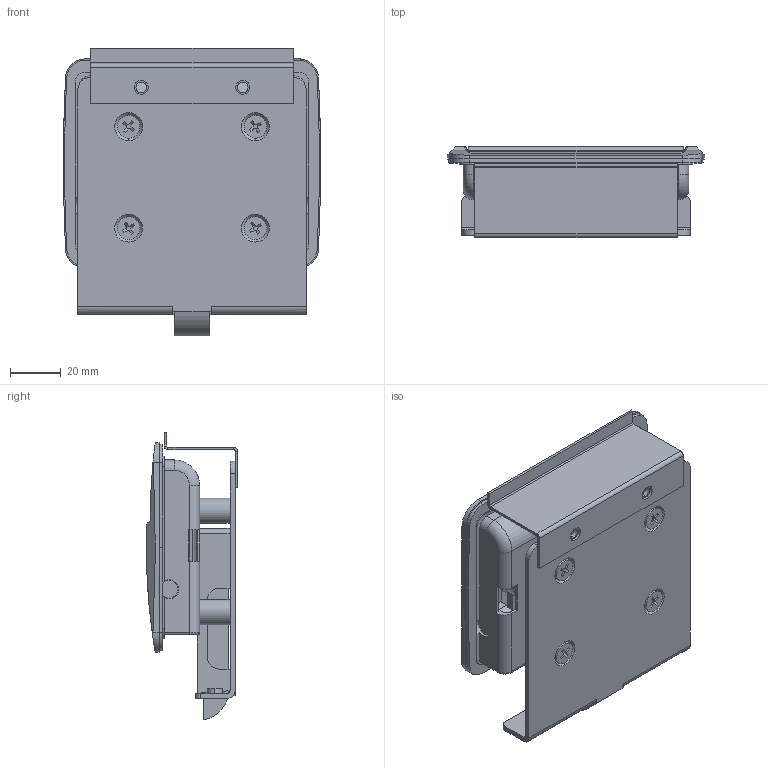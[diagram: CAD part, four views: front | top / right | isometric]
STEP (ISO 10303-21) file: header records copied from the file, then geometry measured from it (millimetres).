
FILE_DESCRIPTION (( 'STEP AP203' ), '1' );
FILE_NAME ('SK1-1009.STEP', '2018-04-26T01:03:24', ( 'admin' ), ( 'Microsoft' ), 'SwSTEP 2.0', 'SolidWorks 2015', '' );
FILE_SCHEMA (( 'CONFIG_CONTROL_DESIGN' ));
Length unit declared in the file: millimetre
Products named in the file (11): SK1-1009菁裔; SK1-1009砎々菜; M5麥芛鼠備酗僅6.5; SK1-1009; SK1-1009結え; SK1-1009參忒; SK1-1009菜え; SK1-1009种隊; SK1-1009坶郋; SK1-1009蜇璃1
Assembly tree (14 placements, depth 2):
  SK1-1009
    SK1-1009
    SK1-1009參忒
    SK1-1009菜え  x2
    SK1-1009种隊
    SK1-1009坶郋
    SK1-1009蜇璃1
    SK1-1009菁裔
    SK1-1009砎々菜
    M5麥芛鼠備酗僅6.5  x4
    SK1-1009結え
Bounding box: 101.48 x 36 x 113.5 mm (x, y, z)
Volume: 74365.8 mm3; surface area: 81753.1 mm2
Topology: 14 solids, 14 shells, 753 faces, 1983 edges, 1290 vertices
Faces by surface type: plane 374, cylinder 249, bspline 90, cone 32, torus 6, sphere 2
Entity records: 26669 total; most frequent: CARTESIAN_POINT 10712, ORIENTED_EDGE 3204, DIRECTION 2792, EDGE_CURVE 1602, VERTEX_POINT 1048, VECTOR 986, LINE 986, AXIS2_PLACEMENT_3D 903
